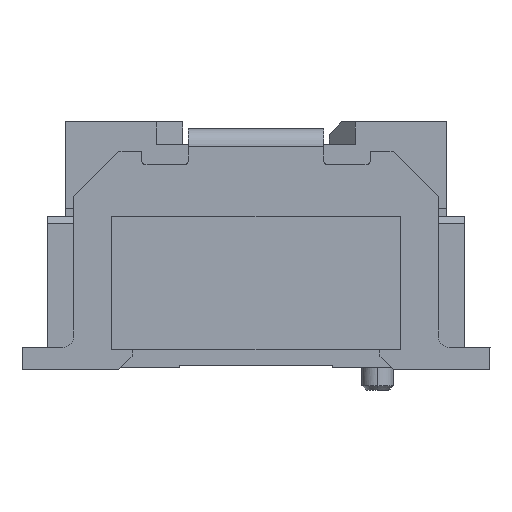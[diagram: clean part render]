
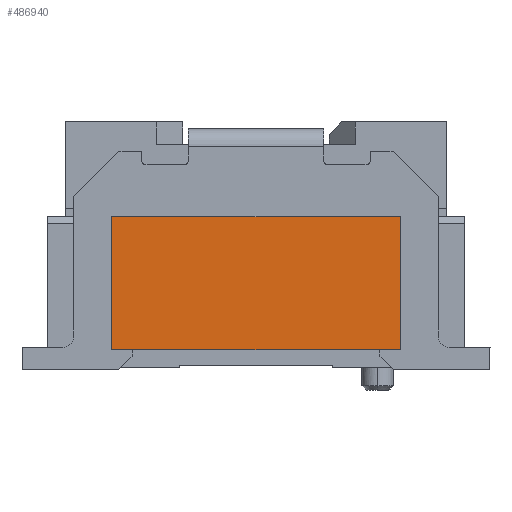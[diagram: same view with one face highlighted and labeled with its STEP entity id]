
A CAD part, left-side view. The second image highlights one B-rep face of the part: STEP entity #486940.
In plain terms, the highlighted planar face has unit normal (-1, 0, 0).
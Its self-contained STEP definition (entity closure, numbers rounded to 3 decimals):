
#471610=CARTESIAN_POINT('',(-11.893,-0.02,
-3.22));
#471620=VERTEX_POINT('',#471610);
#471650=CARTESIAN_POINT('',(-11.893,-0.02,
-5.031));
#471660=DIRECTION('',(0.,0.,-1.));
#471670=VECTOR('',#471660,1.);
#471680=LINE('',#471650,#471670);
#471690=CARTESIAN_POINT('',(-11.893,-0.02,
3.18));
#471700=VERTEX_POINT('',#471690);
#471710=EDGE_CURVE('',#471700,#471620,#471680,.T.);
#486120=CARTESIAN_POINT('',(-11.893,2.93,
-3.22));
#486130=VERTEX_POINT('',#486120);
#486160=CARTESIAN_POINT('',(-11.893,-0.507,
-3.22));
#486170=DIRECTION('',(0.,-1.,0.));
#486180=VECTOR('',#486170,1.);
#486190=LINE('',#486160,#486180);
#486200=EDGE_CURVE('',#486130,#471620,#486190,.T.);
#486440=CARTESIAN_POINT('',(-11.893,-0.507,
3.18));
#486450=DIRECTION('',(0.,1.,0.));
#486460=VECTOR('',#486450,1.);
#486470=LINE('',#486440,#486460);
#486480=CARTESIAN_POINT('',(-11.893,2.93,
3.18));
#486490=VERTEX_POINT('',#486480);
#486500=EDGE_CURVE('',#471700,#486490,#486470,.T.);
#486780=CARTESIAN_POINT('',(-11.893,2.93,
4.88));
#486790=DIRECTION('',(-1.,0.,0.));
#486800=DIRECTION('',(0.,1.,0.));
#486810=AXIS2_PLACEMENT_3D('',#486780,#486790,#486800);
#486820=PLANE('',#486810);
#486830=ORIENTED_EDGE('',*,*,#471710,.F.);
#486840=ORIENTED_EDGE('',*,*,#486200,.T.);
#486850=CARTESIAN_POINT('',(-11.893,2.93,
-5.031));
#486860=DIRECTION('',(0.,0.,-1.));
#486870=VECTOR('',#486860,1.);
#486880=LINE('',#486850,#486870);
#486890=EDGE_CURVE('',#486490,#486130,#486880,.T.);
#486900=ORIENTED_EDGE('',*,*,#486890,.T.);
#486910=ORIENTED_EDGE('',*,*,#486500,.T.);
#486920=EDGE_LOOP('',(#486910,#486900,#486840,#486830));
#486930=FACE_OUTER_BOUND('',#486920,.T.);
#486940=ADVANCED_FACE('',(#486930),#486820,.T.);
